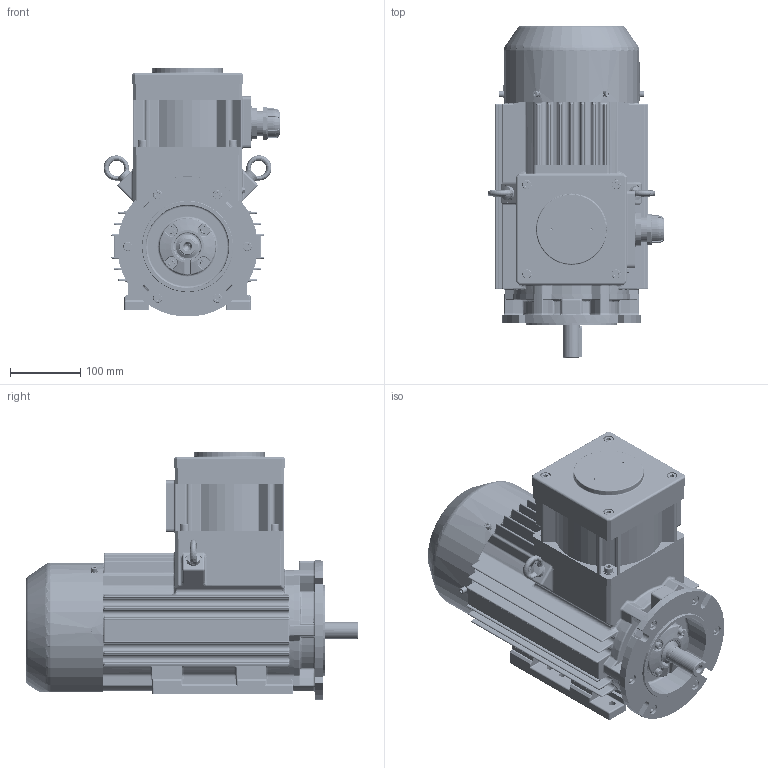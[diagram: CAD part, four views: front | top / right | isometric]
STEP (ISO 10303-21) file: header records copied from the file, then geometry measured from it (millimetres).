
FILE_DESCRIPTION(/* description */ ('Unknown'),/* implementation_level */ '2;1');
FILE_NAME(/* name */ 'Silnik cSTLe 90 - OUTSIDE !',/* time_stamp */ '2021-12-31T11:29:21+01:00',/* author */ ('Unknown'),/* organization */ ('Unknown'),/* preprocessor_version */ 'ST-DEVELOPER v16.7',/* originating_system */ 'DEX',/* authorisation */ $);
FILE_SCHEMA (('AUTOMOTIVE_DESIGN {1 0 10303 214 3 1 1}'));
Products named in the file (1): Silnik   cSTLe 90   -  OUTSIDE !
Bounding box: 251.96 x 473 x 354.68 mm (x, y, z)
Volume: 5844078.3 mm3; surface area: 1261316.4 mm2
Topology: 3 solids, 42 shells, 5083 faces, 13480 edges, 8403 vertices
Faces by surface type: cylinder 1879, plane 1850, torus 544, cone 399, bspline 279, sphere 132
Full cylindrical faces by diameter (mm): 2 x4, 3.2 x4, 4 x1, 4.019 x4, 4.48 x1, 4.773 x8, 4.917 x7, 5 x13, 5.3 x5, 6 x22, 6.466 x20, 6.5 x8, 6.647 x21, 6.88 x1, 8 x46, 8.376 x3, 8.4 x1, 8.5 x4, 9 x20, 10 x19, 11 x4, 13 x24, 15 x17, 22.376 x1, 23.376 x1, 23.6 x1, 23.8 x1, 24 x5, 24.8 x2, 25 x4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
Entity records: 202297 total; most frequent: CARTESIAN_POINT 45589, DIRECTION 25320, ORIENTED_EDGE 24822, EDGE_CURVE 12411, AXIS2_PLACEMENT_3D 9824, VERTEX_POINT 8102, FACE_BOUND 6235, EDGE_LOOP 6195
